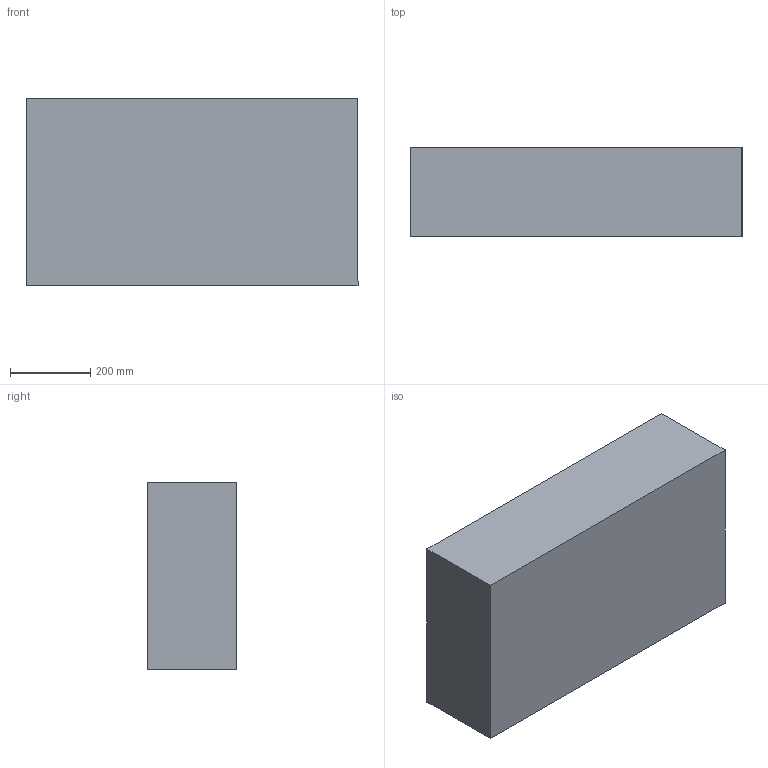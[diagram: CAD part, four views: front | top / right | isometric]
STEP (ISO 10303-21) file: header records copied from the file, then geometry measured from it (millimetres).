
FILE_DESCRIPTION (( 'STEP AP214' ), '1' );
FILE_NAME ('1615 Bottom Tub.STEP', '2019-02-13T21:51:38', ( '' ), ( '' ), 'SwSTEP 2.0', 'SolidWorks 2016', '' );
FILE_SCHEMA (( 'AUTOMOTIVE_DESIGN' ));
Products named in the file (1): 1615 Bottom Tub
Bounding box: 827.58 x 223.08 x 467.33 mm (x, y, z)
Volume: 24781412.7 mm3; surface area: 1819853.4 mm2
Topology: 1 solids, 1 shells, 737 faces, 1827 edges, 1103 vertices
Faces by surface type: cylinder 241, bspline 223, torus 138, plane 129, sphere 6
Entity records: 57084 total; most frequent: CARTESIAN_POINT 41770, ORIENTED_EDGE 3642, DIRECTION 2723, EDGE_CURVE 1821, VERTEX_POINT 1103, AXIS2_PLACEMENT_3D 1085, EDGE_LOOP 754, ADVANCED_FACE 737
